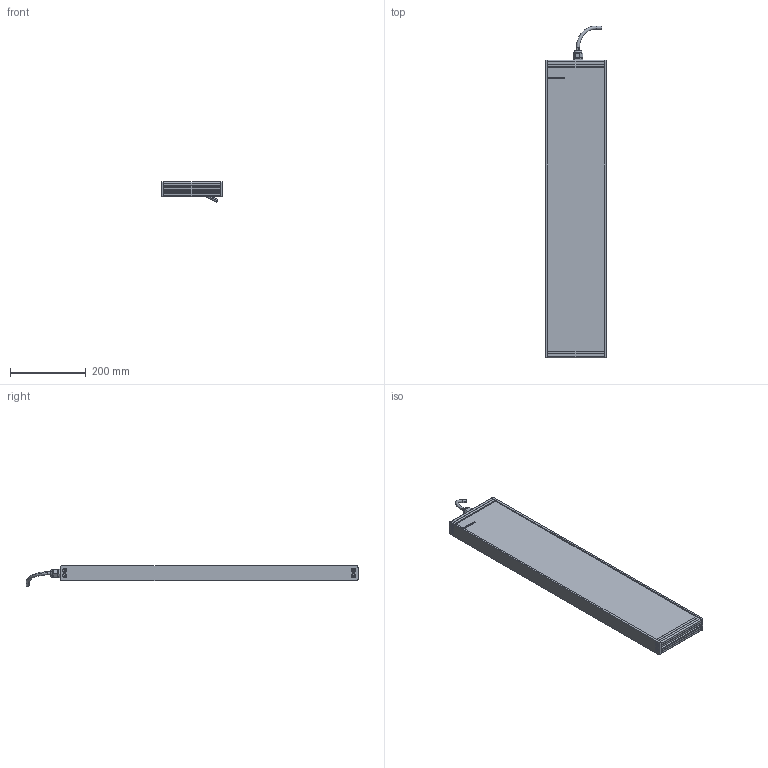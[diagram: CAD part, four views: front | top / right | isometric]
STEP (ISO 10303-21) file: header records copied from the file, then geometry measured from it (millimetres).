
FILE_DESCRIPTION (( 'STEP AP214' ), '1' );
FILE_NAME ('EFFI-BL-150T-750-1M12P.STEP', '2021-06-28T08:58:26', ( '' ), ( '' ), 'SwSTEP 2.0', 'SolidWorks 2021', '' );
FILE_SCHEMA (( 'AUTOMOTIVE_DESIGN' ));
Length unit declared in the file: millimetre
Products named in the file (7): profile modif_lg 99.5 mm; M12 power; Pièce2^EFFI-BL-XXXT-YYY + M12P; EFFI-BL-150T-750-1M12P; bord fin modif_lg 436.5 mm; 003776
Assembly tree (14 placements, depth 2):
  EFFI-BL-150T-750-1M12P
    profile modif_lg 99.5 mm
    bord fin modif_lg 436.5 mm  x2
    Pièce2^EFFI-BL-XXXT-YYY + M12P
    profile modif_lg 99.5 mm
    M12 power
    003776  x8
Bounding box: 160 x 876.45 x 53.92 mm (x, y, z)
Volume: 4377162.7 mm3; surface area: 484151.4 mm2
Topology: 13 solids, 16 shells, 569 faces, 1446 edges, 927 vertices
Faces by surface type: plane 327, bspline 125, cylinder 95, cone 18, torus 4
Entity records: 15286 total; most frequent: CARTESIAN_POINT 5076, ORIENTED_EDGE 2024, DIRECTION 1720, EDGE_CURVE 1014, VECTOR 756, LINE 756, VERTEX_POINT 670, AXIS2_PLACEMENT_3D 482
